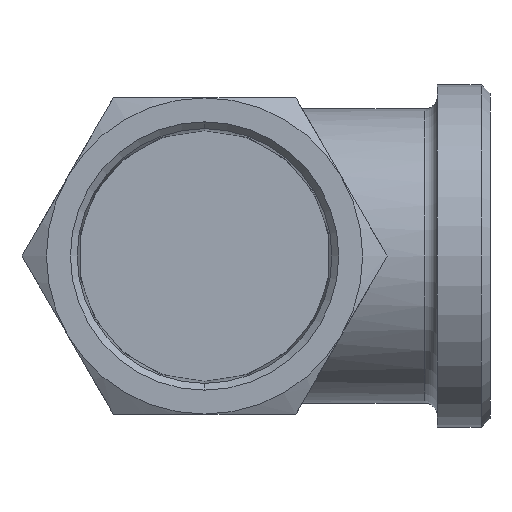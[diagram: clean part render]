
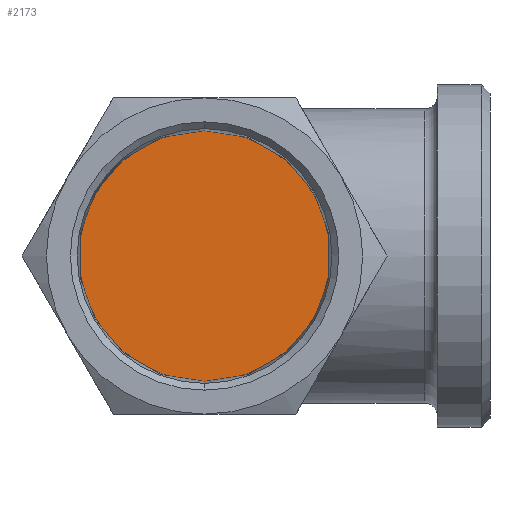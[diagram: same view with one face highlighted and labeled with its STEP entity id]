
A CAD part, left-side view. The second image highlights one B-rep face of the part: STEP entity #2173.
In plain terms, the highlighted planar face has unit normal (-1, 0, 0).
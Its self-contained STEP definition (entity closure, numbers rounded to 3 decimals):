
#213 = VERTEX_POINT ( 'NONE', #2361 ) ;
#308 = VERTEX_POINT ( 'NONE', #347 ) ;
#347 = CARTESIAN_POINT ( 'NONE',  ( -118., 0., -28.55 ) ) ;
#479 = EDGE_LOOP ( 'NONE', ( #633, #1406 ) ) ;
#574 = CIRCLE ( 'NONE', #1750, 28.55 ) ;
#633 = ORIENTED_EDGE ( 'NONE', *, *, #1484, .T. ) ;
#756 = DIRECTION ( 'NONE',  ( 0., 0., 1. ) ) ;
#779 = CIRCLE ( 'NONE', #861, 28.55 ) ;
#861 = AXIS2_PLACEMENT_3D ( 'NONE', #1703, #2281, #1307 ) ;
#936 = CARTESIAN_POINT ( 'NONE',  ( -118., 0., 0. ) ) ;
#939 = AXIS2_PLACEMENT_3D ( 'NONE', #1469, #2228, #756 ) ;
#1307 = DIRECTION ( 'NONE',  ( 0., 0., 1. ) ) ;
#1406 = ORIENTED_EDGE ( 'NONE', *, *, #1864, .T. ) ;
#1469 = CARTESIAN_POINT ( 'NONE',  ( -118., 28.55, 0. ) ) ;
#1484 = EDGE_CURVE ( 'NONE', #213, #308, #574, .T. ) ;
#1496 = DIRECTION ( 'NONE',  ( -1., 0., 0. ) ) ;
#1695 = FACE_OUTER_BOUND ( 'NONE', #479, .T. ) ;
#1703 = CARTESIAN_POINT ( 'NONE',  ( -118., 0., 0. ) ) ;
#1750 = AXIS2_PLACEMENT_3D ( 'NONE', #936, #1496, #2440 ) ;
#1864 = EDGE_CURVE ( 'NONE', #308, #213, #779, .T. ) ;
#2173 = ADVANCED_FACE ( 'NONE', ( #1695 ), #2219, .T. ) ;
#2219 = PLANE ( 'NONE',  #939 ) ;
#2228 = DIRECTION ( 'NONE',  ( -1., 0., 0. ) ) ;
#2281 = DIRECTION ( 'NONE',  ( -1., 0., 0. ) ) ;
#2361 = CARTESIAN_POINT ( 'NONE',  ( -118., 0., 28.55 ) ) ;
#2440 = DIRECTION ( 'NONE',  ( 0., 0., 1. ) ) ;
